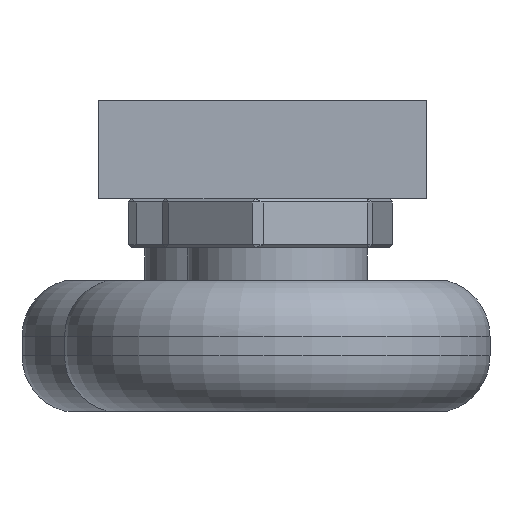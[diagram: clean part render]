
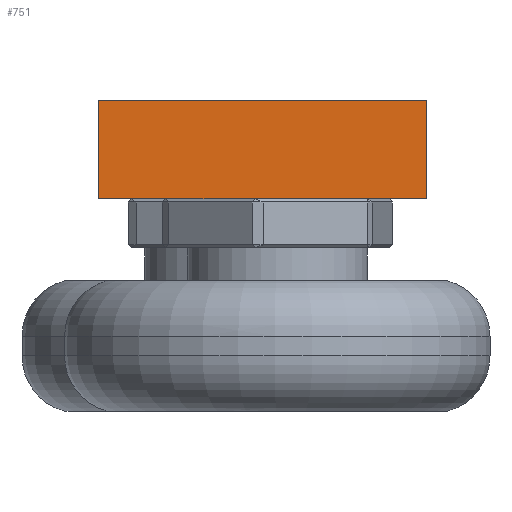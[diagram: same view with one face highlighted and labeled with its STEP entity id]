
A CAD part, left-side view. The second image highlights one B-rep face of the part: STEP entity #751.
In plain terms, the highlighted planar face has unit normal (-1, 0, 0).
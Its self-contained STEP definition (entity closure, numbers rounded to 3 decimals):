
#7 = ORIENTED_EDGE ( 'NONE', *, *, #1934, .T. ) ;
#179 = VECTOR ( 'NONE', #2257, 1000. ) ;
#358 = VERTEX_POINT ( 'NONE', #1041 ) ;
#440 = EDGE_CURVE ( 'NONE', #358, #4054, #2435, .T. ) ;
#611 = DIRECTION ( 'NONE',  ( 1., 0., 0. ) ) ;
#751 = ADVANCED_FACE ( 'NONE', ( #3220 ), #2269, .F. ) ;
#840 = EDGE_LOOP ( 'NONE', ( #3734, #2369, #3187, #7 ) ) ;
#997 = AXIS2_PLACEMENT_3D ( 'NONE', #3570, #611, #2935 ) ;
#1041 = CARTESIAN_POINT ( 'NONE',  ( -85., -10., 3. ) ) ;
#1124 = CARTESIAN_POINT ( 'NONE',  ( -85., -10., -3. ) ) ;
#1129 = DIRECTION ( 'NONE',  ( 0., 0., -1. ) ) ;
#1284 = VECTOR ( 'NONE', #3438, 1000. ) ;
#1566 = VECTOR ( 'NONE', #2166, 1000. ) ;
#1611 = EDGE_CURVE ( 'NONE', #3381, #4054, #2743, .T. ) ;
#1623 = VECTOR ( 'NONE', #1129, 1000. ) ;
#1934 = EDGE_CURVE ( 'NONE', #2132, #3381, #2577, .T. ) ;
#2132 = VERTEX_POINT ( 'NONE', #3835 ) ;
#2166 = DIRECTION ( 'NONE',  ( 0., -1., 0. ) ) ;
#2257 = DIRECTION ( 'NONE',  ( 0., 0., -1. ) ) ;
#2269 = PLANE ( 'NONE',  #997 ) ;
#2369 = ORIENTED_EDGE ( 'NONE', *, *, #440, .F. ) ;
#2435 = LINE ( 'NONE', #2768, #1623 ) ;
#2577 = LINE ( 'NONE', #2603, #179 ) ;
#2603 = CARTESIAN_POINT ( 'NONE',  ( -85., 10., 3. ) ) ;
#2743 = LINE ( 'NONE', #1124, #1566 ) ;
#2768 = CARTESIAN_POINT ( 'NONE',  ( -85., -10., 3. ) ) ;
#2778 = EDGE_CURVE ( 'NONE', #2132, #358, #3379, .T. ) ;
#2935 = DIRECTION ( 'NONE',  ( 0., 0., -1. ) ) ;
#3006 = CARTESIAN_POINT ( 'NONE',  ( -85., -10., -3. ) ) ;
#3187 = ORIENTED_EDGE ( 'NONE', *, *, #2778, .F. ) ;
#3220 = FACE_OUTER_BOUND ( 'NONE', #840, .T. ) ;
#3379 = LINE ( 'NONE', #3720, #1284 ) ;
#3381 = VERTEX_POINT ( 'NONE', #3820 ) ;
#3438 = DIRECTION ( 'NONE',  ( 0., -1., 0. ) ) ;
#3570 = CARTESIAN_POINT ( 'NONE',  ( -85., -10., 3. ) ) ;
#3720 = CARTESIAN_POINT ( 'NONE',  ( -85., -10., 3. ) ) ;
#3734 = ORIENTED_EDGE ( 'NONE', *, *, #1611, .T. ) ;
#3820 = CARTESIAN_POINT ( 'NONE',  ( -85., 10., -3. ) ) ;
#3835 = CARTESIAN_POINT ( 'NONE',  ( -85., 10., 3. ) ) ;
#4054 = VERTEX_POINT ( 'NONE', #3006 ) ;
